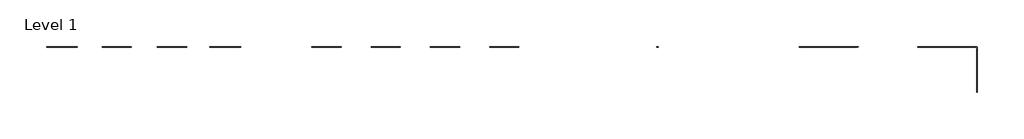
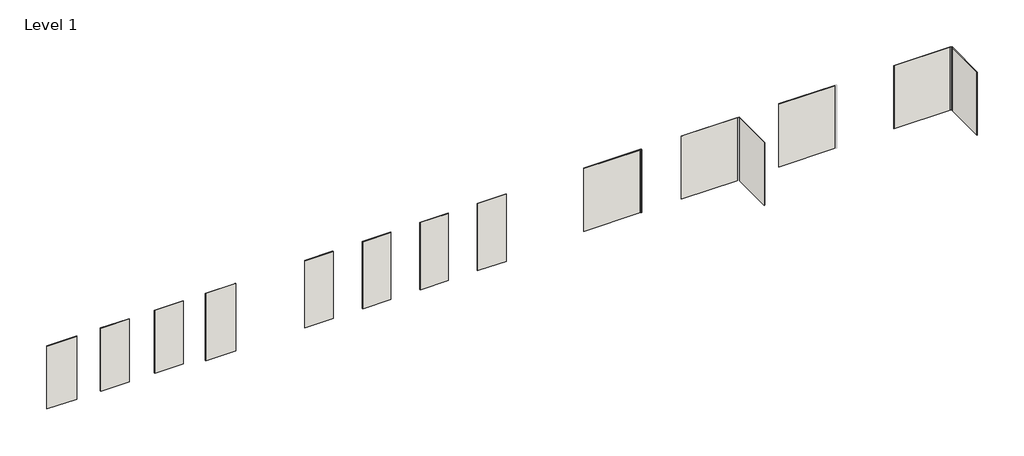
# One storey, part 1 of 2: 14 walls, 1 proxy.
"""IFC4 building model written with IfcOpenShell, lengths in millimetres."""

from ifc_helpers import new_model, si_unit, point, frame, frame_2d, origin, origin_with_axes, place, context, project, spatial, polyline, circle_curve, trimmed, segment, composite_curve, outline, extrude, element, save
from ifc_brep_helpers import plane_surface, cylinder_surface, revolved_surface, advanced_brep

model = new_model("IFC4")

# Units and contexts
model_context = context("Model", 3, world=origin())
ifc_project = project(units=[si_unit("LENGTHUNIT", "METRE", prefix="MILLI")], contexts=[model_context])

# Site, building, storey
site = spatial("IfcSite", under=ifc_project)
building = spatial("IfcBuilding", under=site)
storey = spatial("IfcBuildingStorey", under=building, Name="Level 1", Elevation=0.0)

# Proxy
placement = place(None, origin())
element("IfcBuildingElementProxy", 1, Name="Norweigian Board End Trim UH50 - Brazilian Ipe", ObjectType="Norweigian Board End Trim UH50 - Brazilian Ipe", at=placement, inside=storey, context=model_context, shape_type="SweptSolid", body=[
    extrude(outline(composite_curve([segment(polyline([(27348.9172461, -3620.0808979), (27348.9172461, -3674.0808979), (27340.9317629, -3674.0808979), (27340.9317629, -3654.0808979), (27275.5951823, -3654.0808979)]), True, "CONTINUOUS"), segment(trimmed(circle_curve(frame_2d((27275.5951823, -3652.1029617)), 1.9779361), [point((27275.5951823, -3654.0808979))], [point((27273.6172461, -3652.1029617))], False, "CARTESIAN"), True, "CONTINUOUS"), segment(polyline([(27273.6172461, -3652.1029617), (27273.6172461, -3648.0144073)]), True, "CONTINUOUS"), segment(trimmed(circle_curve(frame_2d((27275.5951823, -3648.0144073)), 1.9779361), [point((27273.6172461, -3648.0144073))], [point((27275.5951823, -3646.0364711))], False, "CARTESIAN"), True, "CONTINUOUS"), segment(polyline([(27275.5951823, -3646.0364711), (27294.1172461, -3646.0364711), (27295.3904041, -3647.4053526), (27303.3904041, -3647.4053526), (27304.663562, -3646.0364711), (27328.6172461, -3646.0364711), (27340.2059797, -3649.5827787)]), True, "CONTINUOUS"), segment(trimmed(circle_curve(frame_2d((27341.0089591, -3646.7824271)), 2.9132018), [point((27340.2059797, -3649.5827787))], [point((27343.9221609, -3646.7824271))], True, "CARTESIAN"), True, "CONTINUOUS"), segment(polyline([(27343.9221609, -3646.7824271), (27343.9221609, -3642.1103492)]), True, "CONTINUOUS"), segment(trimmed(circle_curve(frame_2d((27341.9221609, -3642.1103492)), 2.0), [point((27343.9221609, -3642.1103492))], [point((27341.9221609, -3640.1103492))], True, "CARTESIAN"), True, "CONTINUOUS"), segment(polyline([(27341.9221609, -3640.1103492), (27335.6431378, -3639.7808978), (27331.4731378, -3639.7808978)]), True, "CONTINUOUS"), segment(trimmed(circle_curve(frame_2d((27331.4731378, -3637.7462914)), 2.0346065), [point((27331.4731378, -3639.7808978))], [point((27330.4171888, -3639.4854277))], False, "CARTESIAN"), True, "CONTINUOUS"), segment(polyline([(27330.4171888, -3639.4854277), (27324.8637514, -3636.113555)]), True, "CONTINUOUS"), segment(trimmed(circle_curve(frame_2d((27325.8850088, -3634.4315552)), 1.9677626), [point((27324.8637514, -3636.113555))], [point((27323.9172461, -3634.4315552))], False, "CARTESIAN"), True, "CONTINUOUS"), segment(polyline([(27323.9172461, -3634.4315552), (27323.9172461, -3622.058834)]), True, "CONTINUOUS"), segment(trimmed(circle_curve(frame_2d((27325.8951823, -3622.058834)), 1.9779361), [point((27323.9172461, -3622.058834))], [point((27325.8951823, -3620.0808979))], False, "CARTESIAN"), True, "CONTINUOUS"), segment(polyline([(27325.8951823, -3620.0808979), (27348.9172461, -3620.0808979)]), True, "CONTINUOUS")], self_intersect=False)), frame((0.0, 0.0, 304.8), z_axis=(0.0, 0.0, 1.0), x_axis=(1.0, 0.0, 0.0)), (0.0, 0.0, 1.0), 4572.0),
])

# Walls
element("IfcWall", 2, ObjectType="NewTechWood - Norwegian Board - Brazilian Ipe", at=placement, inside=storey, context=model_context, shape_type="SweptSolid", body=[
    extrude(outline(polyline([(6157.3797461, -3652.6246479), (4207.9297461, -3652.6246479), (4207.9297461, -3619.2871479), (6157.3797461, -3619.2871479), (6157.3797461, -3652.6246479)])), origin_with_axes(), (0.0, 0.0, 1.0), 4876.8),
])
element("IfcWall", 3, ObjectType="NewTechWood - Norwegian Board - Hawaiian Charcoal", at=placement, inside=storey, context=model_context, shape_type="SweptSolid", body=[
    extrude(outline(polyline([(10126.1297461, -3652.6246479), (8170.3297461, -3652.6246479), (8170.3297461, -3619.2871479), (10126.1297461, -3619.2871479), (10126.1297461, -3652.6246479)])), origin_with_axes(), (0.0, 0.0, 1.0), 4876.8),
])
element("IfcWall", 4, ObjectType="NewTechWood - Norwegian Board - Peruvian Teak", at=placement, inside=storey, context=model_context, shape_type="SweptSolid", body=[
    extrude(outline(polyline([(14082.1797461, -3652.6246479), (12132.7297461, -3652.6246479), (12132.7297461, -3619.2871479), (14082.1797461, -3619.2871479), (14082.1797461, -3652.6246479)])), origin_with_axes(), (0.0, 0.0, 1.0), 4876.8),
])
element("IfcWall", 5, ObjectType="NewTechWood - Norwegian Board - Roman Antique", at=placement, inside=storey, context=model_context, shape_type="SweptSolid", body=[
    extrude(outline(polyline([(18044.5797461, -3652.6246479), (16095.1297461, -3652.6246479), (16095.1297461, -3619.2871479), (18044.5797461, -3619.2871479), (18044.5797461, -3652.6246479)])), origin_with_axes(), (0.0, 0.0, 1.0), 4876.8),
])
element("IfcWall", 6, ObjectType="NewTechWood - Norwegian Board - Brazilian Ipe", at=placement, inside=storey, context=model_context, shape_type="SweptSolid", body=[
    extrude(outline(composite_curve([segment(polyline([(23384.9297461, -3653.4183979), (23384.9297461, -3620.0808979), (27325.8951823, -3620.0808979)]), True, "CONTINUOUS"), segment(trimmed(circle_curve(frame_2d((27325.8951823, -3622.058834)), 1.9779361), [point((27325.8951823, -3620.0808979))], [point((27323.9172461, -3622.058834))], True, "CARTESIAN"), True, "CONTINUOUS"), segment(polyline([(27323.9172461, -3622.058834), (27323.9172461, -3634.4315552)]), True, "CONTINUOUS"), segment(trimmed(circle_curve(frame_2d((27325.8850088, -3634.4315552)), 1.9677626), [point((27323.9172461, -3634.4315552))], [point((27324.8637514, -3636.113555))], True, "CARTESIAN"), True, "CONTINUOUS"), segment(polyline([(27324.8637514, -3636.113555), (27330.4171888, -3639.4854277)]), True, "CONTINUOUS"), segment(trimmed(circle_curve(frame_2d((27331.4731378, -3637.7462914)), 2.0346065), [point((27330.4171888, -3639.4854277))], [point((27331.4731378, -3639.7808978))], True, "CARTESIAN"), True, "CONTINUOUS"), segment(polyline([(27331.4731378, -3639.7808978), (27335.6431378, -3639.7808978), (27341.9221609, -3640.1103492)]), True, "CONTINUOUS"), segment(trimmed(circle_curve(frame_2d((27341.9221609, -3642.1103492)), 2.0), [point((27341.9221609, -3640.1103492))], [point((27343.9221609, -3642.1103492))], False, "CARTESIAN"), True, "CONTINUOUS"), segment(polyline([(27343.9221609, -3642.1103492), (27343.9221609, -3646.7824271)]), True, "CONTINUOUS"), segment(trimmed(circle_curve(frame_2d((27341.0089591, -3646.7824271)), 2.9132018), [point((27343.9221609, -3646.7824271))], [point((27340.2059797, -3649.5827787))], False, "CARTESIAN"), True, "CONTINUOUS"), segment(polyline([(27340.2059797, -3649.5827787), (27328.6172461, -3646.0364711), (27304.663562, -3646.0364711), (27303.3904041, -3647.4053526), (27295.3904041, -3647.4053526), (27294.1172461, -3646.0364711), (27275.5951823, -3646.0364711)]), True, "CONTINUOUS"), segment(trimmed(circle_curve(frame_2d((27275.5951823, -3648.0144073)), 1.9779361), [point((27275.5951823, -3646.0364711))], [point((27273.6172461, -3648.0144073))], True, "CARTESIAN"), True, "CONTINUOUS"), segment(polyline([(27273.6172461, -3648.0144073), (27273.6172461, -3652.1029617)]), True, "CONTINUOUS"), segment(trimmed(circle_curve(frame_2d((27275.5951823, -3652.1029617)), 1.9779361), [point((27273.6172461, -3652.1029617))], [point((27274.1180705, -3653.4183979))], True, "CARTESIAN"), True, "CONTINUOUS"), segment(polyline([(27274.1180705, -3653.4183979), (23384.9297461, -3653.4183979)]), True, "CONTINUOUS")], self_intersect=False)), frame((0.0, 0.0, 304.8), z_axis=(0.0, 0.0, 1.0), x_axis=(1.0, 0.0, 0.0)), (0.0, 0.0, 1.0), 4572.0),
])
element("IfcWall", 7, ObjectType="NewTechWood - Belgian Board - Brazilian Ipe", at=placement, inside=storey, context=model_context, shape_type="SweptSolid", body=[
    extrude(outline(polyline([(-537.4292987, -3652.6246479), (-2613.8792987, -3652.6246479), (-2613.8792987, -3619.2871479), (-537.4292987, -3619.2871479), (-537.4292987, -3652.6246479)])), origin_with_axes(), (0.0, 0.0, 1.0), 4876.8),
])
element("IfcWall", 8, ObjectType="NewTechWood - Belgian Board - Hawaiian Charcoal", at=placement, inside=storey, context=model_context, shape_type="SweptSolid", body=[
    extrude(outline(polyline([(-4163.2792987, -3652.6246479), (-6119.0792987, -3652.6246479), (-6119.0792987, -3619.2871479), (-4163.2792987, -3619.2871479), (-4163.2792987, -3652.6246479)])), frame((0.0, 0.0, 304.8), z_axis=(0.0, 0.0, 1.0), x_axis=(1.0, 0.0, 0.0)), (0.0, 0.0, 1.0), 4572.0),
])
element("IfcWall", 9, ObjectType="NewTechWood - Belgian Board - Peruvian Teak", at=placement, inside=storey, context=model_context, shape_type="SweptSolid", body=[
    extrude(outline(polyline([(-7871.6792987, -3652.6246479), (-9827.4792987, -3652.6246479), (-9827.4792987, -3619.2871479), (-7871.6792987, -3619.2871479), (-7871.6792987, -3652.6246479)])), frame((0.0, 0.0, 304.8), z_axis=(0.0, 0.0, 1.0), x_axis=(1.0, 0.0, 0.0)), (0.0, 0.0, 1.0), 4572.0),
])
element("IfcWall", 10, ObjectType="NewTechWood - Norwegian Board - Roman Antique", at=placement, inside=storey, context=model_context, shape_type="SweptSolid", body=[
    extrude(outline(composite_curve([segment(polyline([(30090.5297461, -3653.4183979), (30090.5297461, -3620.0808979), (34047.1859961, -3620.0808979)]), True, "CONTINUOUS"), segment(trimmed(circle_curve(frame_2d((34047.1859961, -3622.0808979)), 2.0), [point((34047.1859961, -3620.0808979))], [point((34045.1859961, -3622.0808979))], True, "CARTESIAN"), True, "CONTINUOUS"), segment(polyline([(34045.1859961, -3622.0808979), (34045.1859961, -3639.9677463)]), True, "CONTINUOUS"), segment(trimmed(circle_curve(frame_2d((34038.6870278, -3639.8519442)), 6.5), [point((34045.1859961, -3639.9677463))], [point((34038.8028299, -3646.3509125))], False, "CARTESIAN"), True, "CONTINUOUS"), segment(polyline([(34038.8028299, -3646.3509125), (34008.1891394, -3646.3509125), (34006.9159815, -3647.719794), (33998.9159815, -3647.719794), (33997.6428235, -3646.3509125), (33983.899372, -3646.3509125)]), True, "CONTINUOUS"), segment(trimmed(circle_curve(frame_2d((33983.9095219, -3647.350861)), 1.0), [point((33983.899372, -3646.3509125))], [point((33982.9159815, -3647.2373822))], True, "CARTESIAN"), True, "CONTINUOUS"), segment(polyline([(33982.9159815, -3647.2373822), (33982.9159815, -3653.4183979), (30090.5297461, -3653.4183979)]), True, "CONTINUOUS")], self_intersect=False)), frame((0.0, 0.0, 304.8), z_axis=(0.0, 0.0, 1.0), x_axis=(1.0, 0.0, 0.0)), (0.0, 0.0, 1.0), 4572.0),
    extrude(outline(composite_curve([segment(polyline([(34071.1859961, -3653.4183979), (34044.9159815, -3653.4183979), (34044.9159815, -3652.4640641)]), True, "CONTINUOUS"), segment(trimmed(circle_curve(frame_2d((34051.4149498, -3652.5798662)), 6.5), [point((34044.9159815, -3652.4640641))], [point((34051.2991477, -3646.0808979))], False, "CARTESIAN"), True, "CONTINUOUS"), segment(polyline([(34051.2991477, -3646.0808979), (34069.1859961, -3646.0808979)]), True, "CONTINUOUS"), segment(trimmed(circle_curve(frame_2d((34069.1859961, -3644.0808979)), 2.0), [point((34069.1859961, -3646.0808979))], [point((34071.1859961, -3644.0808979))], True, "CARTESIAN"), True, "CONTINUOUS"), segment(polyline([(34071.1859961, -3644.0808979), (34071.1859961, -3653.4183979)]), True, "CONTINUOUS")], self_intersect=False)), frame((0.0, 0.0, 304.8), z_axis=(0.0, 0.0, 1.0), x_axis=(1.0, 0.0, 0.0)), (0.0, 0.0, 1.0), 4572.0),
])
element("IfcWall", 11, ObjectType="NewTechWood - Norwegian Board - Roman Antique", at=placement, inside=storey, context=model_context, shape_type="SweptSolid", body=[
    extrude(outline(composite_curve([segment(polyline([(34071.1859961, -3653.4183979), (34071.1859961, -6683.9558979), (34037.8484961, -6683.9558979), (34037.8484961, -3708.3509125), (34044.0295118, -3708.3509125)]), True, "CONTINUOUS"), segment(trimmed(circle_curve(frame_2d((34043.916033, -3707.3573721)), 1.0), [point((34044.0295118, -3708.3509125))], [point((34044.9159815, -3707.3675219))], True, "CARTESIAN"), True, "CONTINUOUS"), segment(polyline([(34044.9159815, -3707.3675219), (34044.9159815, -3693.6240705), (34043.5470999, -3692.3509125), (34043.5470999, -3684.3509125), (34044.9159815, -3683.0777546), (34044.9159815, -3653.4183979), (34071.1859961, -3653.4183979)]), True, "CONTINUOUS")], self_intersect=False)), frame((0.0, 0.0, 304.8), z_axis=(0.0, 0.0, 1.0), x_axis=(1.0, 0.0, 0.0)), (0.0, 0.0, 1.0), 4572.0),
])
element("IfcWall", 12, ObjectType="NewTechWood - Norwegian Board - Peruvian Teak", at=placement, inside=storey, context=model_context, shape_type="SweptSolid", body=[
    extrude(outline(composite_curve([segment(polyline([(36796.1297461, -3653.4183979), (36796.1297461, -3620.0808979), (40711.6951823, -3620.0808979)]), True, "CONTINUOUS"), segment(trimmed(circle_curve(frame_2d((40711.6951823, -3622.058834)), 1.9779361), [point((40711.6951823, -3620.0808979))], [point((40709.7172461, -3622.058834))], True, "CARTESIAN"), True, "CONTINUOUS"), segment(polyline([(40709.7172461, -3622.058834), (40709.7172461, -3634.7610066)]), True, "CONTINUOUS"), segment(trimmed(circle_curve(frame_2d((40711.6850088, -3634.7610066)), 1.9677626), [point((40709.7172461, -3634.7610066))], [point((40710.6637514, -3636.4430063))], True, "CARTESIAN"), True, "CONTINUOUS"), segment(polyline([(40710.6637514, -3636.4430063), (40716.2171888, -3639.8148791)]), True, "CONTINUOUS"), segment(trimmed(circle_curve(frame_2d((40717.2731378, -3638.0757427)), 2.0346065), [point((40716.2171888, -3639.8148791))], [point((40717.2731378, -3640.1103492))], True, "CARTESIAN"), True, "CONTINUOUS"), segment(polyline([(40717.2731378, -3640.1103492), (40734.1221609, -3640.1103492)]), True, "CONTINUOUS"), segment(trimmed(circle_curve(frame_2d((40734.1221609, -3641.1103492)), 1.0), [point((40734.1221609, -3640.1103492))], [point((40735.1221609, -3641.1103492))], False, "CARTESIAN"), True, "CONTINUOUS"), segment(polyline([(40735.1221609, -3641.1103492), (40735.1221609, -3647.4053526)]), True, "CONTINUOUS"), segment(trimmed(circle_curve(frame_2d((40733.1221609, -3647.4053526)), 2.0), [point((40735.1221609, -3647.4053526))], [point((40733.1221609, -3649.4053526))], False, "CARTESIAN"), True, "CONTINUOUS"), segment(polyline([(40733.1221609, -3649.4053526), (40705.2489913, -3649.4053526), (40703.8801098, -3648.0364711), (40700.963562, -3648.0364711), (40699.6904041, -3649.4053526), (40691.6904041, -3649.4053526), (40690.4172461, -3648.0364711), (40671.8951823, -3648.0364711)]), True, "CONTINUOUS"), segment(trimmed(circle_curve(frame_2d((40671.8951823, -3650.0144073)), 1.9779361), [point((40671.8951823, -3648.0364711))], [point((40669.9172461, -3650.0144073))], True, "CARTESIAN"), True, "CONTINUOUS"), segment(polyline([(40669.9172461, -3650.0144073), (40669.9172461, -3653.4183979), (36796.1297461, -3653.4183979)]), True, "CONTINUOUS")], self_intersect=False)), frame((0.0, 0.0, 304.8), z_axis=(0.0, 0.0, 1.0), x_axis=(1.0, 0.0, 0.0)), (0.0, 0.0, 1.0), 4572.0),
])
element("IfcWall", 13, ObjectType="NewTechWood - Belgian Board - Hawaiian Charcoal", at=placement, inside=storey, context=model_context, shape_type="SweptSolid", body=[
    extrude(outline(composite_curve([segment(polyline([(44720.9297461, -3653.4183979), (44720.9297461, -3620.0808979), (48649.6086502, -3620.0808979)]), True, "CONTINUOUS"), segment(trimmed(circle_curve(frame_2d((48649.6086502, -3622.103552)), 2.0226541), [point((48649.6086502, -3620.0808979))], [point((48647.5859961, -3622.103552))], True, "CARTESIAN"), True, "CONTINUOUS"), segment(polyline([(48647.5859961, -3622.103552), (48647.5859961, -3647.4450292)]), True, "CONTINUOUS"), segment(trimmed(circle_curve(frame_2d((48646.5859961, -3647.4450292)), 1.0), [point((48647.5859961, -3647.4450292))], [point((48646.5795976, -3648.4450087))], False, "CARTESIAN"), True, "CONTINUOUS"), segment(polyline([(48646.5795976, -3648.4450087), (48622.5907668, -3648.4450087), (48621.3176089, -3647.0761272), (48606.8639247, -3647.0761272), (48605.5907668, -3648.4450087), (48597.5907668, -3648.4450087), (48596.3176089, -3647.0761272), (48572.5741574, -3647.0761272)]), True, "CONTINUOUS"), segment(trimmed(circle_curve(frame_2d((48572.5843072, -3648.0760757)), 1.0), [point((48572.5741574, -3647.0761272))], [point((48571.5907668, -3647.9625968))], True, "CARTESIAN"), True, "CONTINUOUS"), segment(polyline([(48571.5907668, -3647.9625968), (48571.5907668, -3653.4183979), (44720.9297461, -3653.4183979)]), True, "CONTINUOUS")], self_intersect=False)), frame((0.0, 0.0, 304.8), z_axis=(0.0, 0.0, 1.0), x_axis=(1.0, 0.0, 0.0)), (0.0, 0.0, 1.0), 4572.0),
])
element("IfcWall", 14, ObjectType="NewTechWood - Belgian Board - Hawaiian Charcoal", at=placement, inside=storey, context=model_context, shape_type="AdvancedBrep", body=[
    advanced_brep(
    [(48668.2484961, -6683.9558979, 304.8), (48668.2484961, -6683.9558979, 4876.8), (48668.2484961, -3750.0761272, 4876.8), (48668.2484961, -3750.0761272, 304.8), (48701.5859961, -6683.9558979, 4876.8), (48701.5859961, -6683.9558979, 304.8), (48701.5859961, -3672.0582438, 304.8), (48701.5859961, -3672.0582438, 4876.8), (48673.7042972, -3750.0761272, 304.8), (48674.5907668, -3749.0927366, 304.8), (48674.5907668, -3725.3492851, 304.8), (48673.2218853, -3724.0761272, 304.8), (48673.2218853, -3716.0761272, 304.8), (48674.5907668, -3714.8029693, 304.8), (48674.5907668, -3700.3492851, 304.8), (48673.2218853, -3699.0761272, 304.8), (48673.2218853, -3675.0744993, 304.8), (48674.2218648, -3674.0808979, 304.8), (48699.563342, -3674.0808979, 304.8), (48699.563342, -3674.0808979, 4876.8), (48674.2218648, -3674.0808979, 4876.8), (48673.2218853, -3675.0744993, 4876.8), (48673.2218853, -3699.0761272, 4876.8), (48674.5907668, -3700.3492851, 4876.8), (48674.5907668, -3714.8029693, 4876.8), (48673.2218853, -3716.0761272, 4876.8), (48673.2218853, -3724.0761272, 4876.8), (48674.5907668, -3725.3492851, 4876.8), (48674.5907668, -3749.0927366, 4876.8), (48673.7042972, -3750.0761272, 4876.8)],
    [
        (0, 1),
        (1, 2),
        (2, 3),
        (3, 0),
        (4, 5),
        (5, 6),
        (6, 7),
        (7, 4),
        (5, 0),
        (3, 8),
        (8, 9, circle_curve(frame((48673.5908183, -3749.0825868, 304.8), z_axis=(0.0, 0.0, 1.0), x_axis=(-0.681040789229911, 0.7322454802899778, 0.0)), 1.0)),
        (9, 10),
        (10, 11),
        (11, 12),
        (12, 13),
        (13, 14),
        (14, 15),
        (15, 16),
        (16, 17, circle_curve(frame((48674.2218648, -3675.0808979, 304.8), z_axis=(0.0, 0.0, -1.0), x_axis=(-0.7071067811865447, 0.7071067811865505, 0.0)), 1.0)),
        (17, 18),
        (18, 6, circle_curve(frame((48699.563342, -3672.0582438, 304.8), z_axis=(0.0, 0.0, 1.0), x_axis=(0.0, -1.0, 0.0)), 2.0226541)),
        (4, 1),
        (7, 19, circle_curve(frame((48699.563342, -3672.0582438, 4876.8), z_axis=(0.0, 0.0, -1.0), x_axis=(0.0, -1.0, 0.0)), 2.0226541)),
        (19, 20),
        (20, 21, circle_curve(frame((48674.2218648, -3675.0808979, 4876.8), z_axis=(0.0, 0.0, 1.0), x_axis=(-0.7071067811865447, 0.7071067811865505, 0.0)), 1.0)),
        (21, 22),
        (22, 23),
        (23, 24),
        (24, 25),
        (25, 26),
        (26, 27),
        (27, 28),
        (28, 29, circle_curve(frame((48673.5908183, -3749.0825868, 4876.8), z_axis=(0.0, 0.0, -1.0), x_axis=(-0.681040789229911, 0.7322454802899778, 0.0)), 1.0)),
        (29, 2),
        (23, 14),
        (13, 24),
        (12, 25),
        (11, 26),
        (10, 27),
        (9, 28),
        (8, 29),
        (18, 19),
        (17, 20),
        (16, 21),
        (15, 22),
    ],
    [
        plane_surface(frame((48668.2484961, -3635.9558979, 304.8), z_axis=(-1.0, 0.0, 0.0), x_axis=(0.0, -1.0, 0.0))),
        plane_surface(frame((48701.5859961, -3635.9558979, 304.8), z_axis=(1.0, 0.0, 0.0), x_axis=(0.0, 1.0, 0.0))),
        plane_surface(frame((48668.2484961, -3636.7496479, 304.8), z_axis=(0.0, 0.0, -1.0), x_axis=(1.0, 0.0, 0.0))),
        plane_surface(frame((48668.2484961, -6683.9558979, 304.8), z_axis=(0.0, -1.0, 0.0), x_axis=(1.0, 0.0, 0.0))),
        plane_surface(frame((48668.2484961, -6683.9558979, 4876.8), z_axis=(0.0, 0.0, 1.0), x_axis=(1.0, 0.0, 0.0))),
        plane_surface(frame((48674.5907668, -3700.3492851, 304.8), z_axis=(-1.0, 0.0, 0.0), x_axis=(0.0, 0.0, 1.0))),
        plane_surface(frame((48674.5907668, -3714.8029693, 304.8), z_axis=(-0.6810407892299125, 0.7322454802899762, 0.0), x_axis=(0.0, 0.0, 1.0))),
        plane_surface(frame((48673.2218853, -3716.0761272, 304.8), z_axis=(-1.0, 0.0, 0.0), x_axis=(0.0, 0.0, 1.0))),
        plane_surface(frame((48673.2218853, -3724.0761272, 304.8), z_axis=(-0.6810407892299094, -0.732245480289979, 0.0), x_axis=(0.0, 0.0, 1.0))),
        plane_surface(frame((48674.5907668, -3725.3492851, 304.8), z_axis=(-1.0, 0.0, 0.0), x_axis=(0.0, 0.0, 1.0))),
        revolved_surface(polyline([(48672.909777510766, -3748.35034131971, 304.8), (48672.909777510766, -3748.35034131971, 4876.800000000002)]), (48673.5908183, -3749.0825868, 304.8), (0.0, 0.0, -1.0000000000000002)),
        plane_surface(frame((48673.7042972, -3750.0761272, 304.8), z_axis=(0.0, 1.0, 0.0), x_axis=(0.0, 0.0, 1.0))),
        revolved_surface(polyline([(48699.563342, -3674.0808979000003, 304.8), (48699.563342, -3674.0808979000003, 4876.8)]), (48699.563342, -3672.0582438, 304.8), (0.0, 0.0, -1.0)),
        plane_surface(frame((48699.563342, -3674.0808979, 304.8), z_axis=(0.0, 1.0, 0.0), x_axis=(0.0, 0.0, 1.0))),
        cylinder_surface(frame((48674.2218648, -3675.0808979, 304.8), z_axis=(0.0, 0.0, 1.0), x_axis=(-0.7071067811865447, 0.7071067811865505, 0.0)), 1.0),
        plane_surface(frame((48673.2218853, -3675.0744993, 304.8), z_axis=(-1.0, 0.0, 0.0), x_axis=(0.0, 0.0, 1.0))),
        plane_surface(frame((48673.2218853, -3699.0761272, 304.8), z_axis=(-0.6810407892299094, -0.732245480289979, 0.0), x_axis=(0.0, 0.0, 1.0))),
    ],
    [
        (0, [[1, 2, 3, 4]]),
        (1, [[5, 6, 7, 8]]),
        (2, [[9, -4, 10, 11, 12, 13, 14, 15, 16, 17, 18, 19, 20, 21, -6]]),
        (3, [[-1, -9, -5, 22]]),
        (4, [[-22, -8, 23, 24, 25, 26, 27, 28, 29, 30, 31, 32, 33, 34, -2]]),
        (5, [[35, -16, 36, -28]]),
        (6, [[-36, -15, 37, -29]]),
        (7, [[-37, -14, 38, -30]]),
        (8, [[-38, -13, 39, -31]]),
        (9, [[-39, -12, 40, -32]]),
        (10, [[-40, -11, 41, -33]]),
        (11, [[-41, -10, -3, -34]]),
        (12, [[42, -23, -7, -21]]),
        (13, [[-42, -20, 43, -24]]),
        (14, [[-43, -19, 44, -25]]),
        (15, [[-44, -18, 45, -26]]),
        (16, [[-45, -17, -35, -27]]),
    ],
),
])
element("IfcWall", 15, ObjectType="NewTechWood - Belgian Board - Roman Antique", at=placement, inside=storey, context=model_context, shape_type="SweptSolid", body=[
    extrude(outline(polyline([(-11472.1292987, -3652.6246479), (-13535.8792987, -3652.6246479), (-13535.8792987, -3619.2871479), (-11472.1292987, -3619.2871479), (-11472.1292987, -3652.6246479)])), frame((0.0, 0.0, 304.8), z_axis=(0.0, 0.0, 1.0), x_axis=(1.0, 0.0, 0.0)), (0.0, 0.0, 1.0), 4572.0),
])

save(model, "model.ifc")
